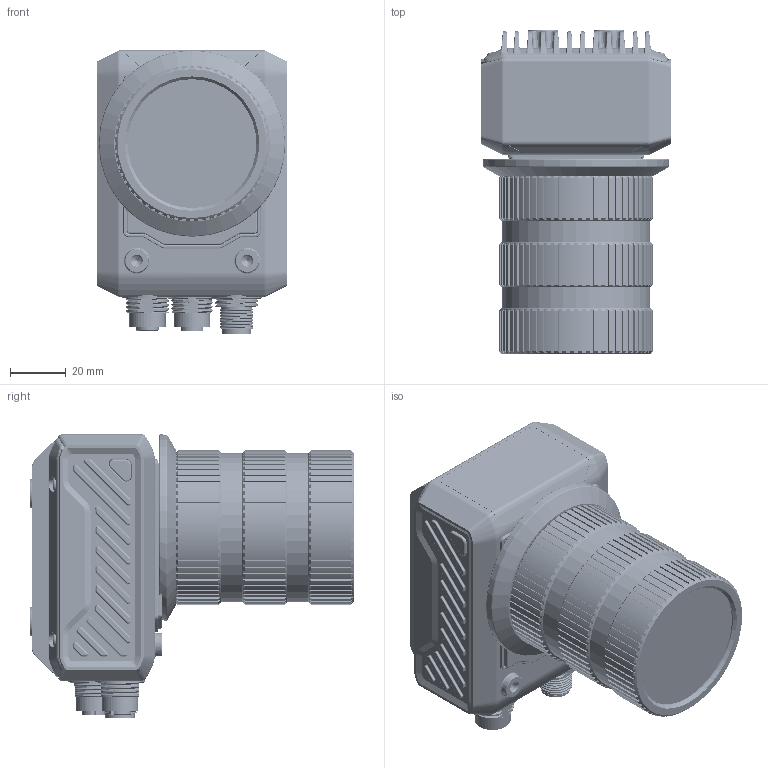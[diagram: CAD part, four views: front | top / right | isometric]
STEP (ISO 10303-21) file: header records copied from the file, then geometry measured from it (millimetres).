
FILE_DESCRIPTION((''),'2;1');
FILE_NAME('SC6000-TOP-ASSY_ASM','2023-05-25T11:31:13',('huguozhe'),(''),'CREO PARAMETRIC BY PTC INC, 2020044','CREO PARAMETRIC BY PTC INC, 2020044','');
FILE_SCHEMA(('AUTOMOTIVE_DESIGN { 1 0 10303 214 1 1 1 1 }'));
Products named in the file (27): DE-13-001079; DE-13-001082_ASM; DE-13-000433; DE-13-000434_ASM; D-01-37-26-0031; DE-17-000199; DE-15-000090; DE-11-034187; DA-20-018596_ASM; DE-12-002879; DE-17-001894; DE-12-002882; DE-19-006651; DE-19-006833; DE-19-006651_ASM; DE-17-001941; DE-13-001080; DE-13-001083_ASM; MV-24203REV11-FR; MV-24203REV11; DE-20-013949_ASM; 101304206; CNT12-M12-Z17A23D-ALL-3D; CNT12-M12-Z17A11B-ALL-3D; MV-24203REV11_ASM; SC-P0M2_5X6-BNI-GB818; SC6000-TOP-ASSY_ASM
Assembly tree (30 placements, depth 4):
  SC6000-TOP-ASSY_ASM
    DE-13-001082_ASM
      DE-13-001079
    DA-20-018596_ASM
      DE-13-000434_ASM
        DE-13-000433
      D-01-37-26-0031
      DE-17-000199
      DE-15-000090
      DE-11-034187
    DE-12-002879
    DE-17-001894
    DE-12-002882  x2
    DE-19-006651_ASM
      DE-19-006651
      DE-19-006833
    DE-17-001941
    DE-13-001083_ASM
      DE-13-001080
    MV-24203REV11_ASM
      DE-20-013949_ASM
        MV-24203REV11-FR
        MV-24203REV11
      101304206
      CNT12-M12-Z17A23D-ALL-3D
      CNT12-M12-Z17A11B-ALL-3D
    SC-P0M2_5X6-BNI-GB818  x4
Bounding box: 68.6 x 116.3 x 101.83 mm (x, y, z)
Volume: 145638.2 mm3; surface area: 134682.8 mm2
Topology: 24 solids, 111 shells, 7052 faces, 17752 edges, 10943 vertices
Faces by surface type: cylinder 2414, plane 2062, bspline 966, cone 913, torus 519, extrusion 73, sphere 65, revolution 40
Entity records: 318019 total; most frequent: CARTESIAN_POINT 120027, ORIENTED_EDGE 34232, DIRECTION 32166, EDGE_CURVE 17188, AXIS2_PLACEMENT_3D 12570, VERTEX_POINT 10730, PRESENTATION_STYLE_ASSIGNMENT 9314, STYLED_ITEM 9314
